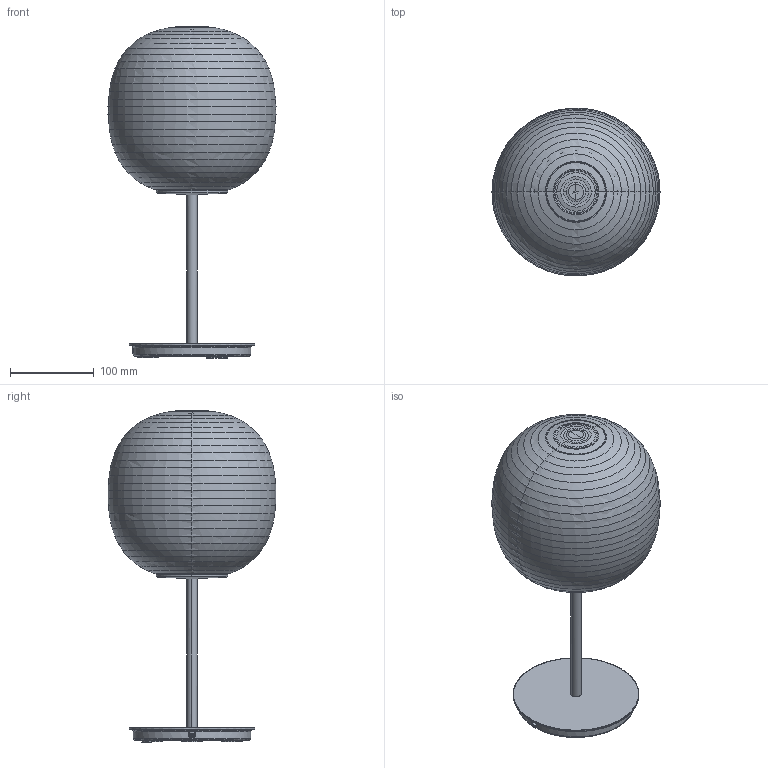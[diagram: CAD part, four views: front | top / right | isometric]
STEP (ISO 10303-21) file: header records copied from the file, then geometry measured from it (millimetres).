
FILE_DESCRIPTION(/* description */ (''),/* implementation_level */ '2;1');
FILE_NAME(/* name */ 'Lantern table lamp small incl. construction',/* time_stamp */ '2020-08-28T23:21:08+02:00',/* author */ (''),/* organization */ (''),/* preprocessor_version */ 'ST-DEVELOPER v15',/* originating_system */ '',/* authorisation */ '');
FILE_SCHEMA (('AUTOMOTIVE_DESIGN'));
Length unit declared in the file: millimetre
Products named in the file (14): Document; 5_5; 5_12; 5_13; 5_14; 5_15; 5_16; 5_17; 5_24; 5_25; 6666_2; 6666_3; 6666_1; 102M4X18MM
Assembly tree (15 placements, depth 2):
  Document
    5_5
    5_12
    5_13
    5_14
    5_15
    5_16
    5_17
    5_24
    5_25
    6666_2
    6666_3
    6666_1
    102M4X18MM  x3
Bounding box: 200.51 x 200.15 x 396.13 mm (x, y, z)
Volume: 557197.1 mm3; surface area: 364147.6 mm2
Topology: 15 solids, 15 shells, 649 faces, 1519 edges, 862 vertices
Faces by surface type: bspline 600, plane 49
Entity records: 36436 total; most frequent: CARTESIAN_POINT 28695, ORIENTED_EDGE 2698, EDGE_CURVE 1349, VERTEX_POINT 800, EDGE_LOOP 629, ADVANCED_FACE 589, FACE_OUTER_BOUND 589, B_SPLINE_CURVE_WITH_KNOTS 445
